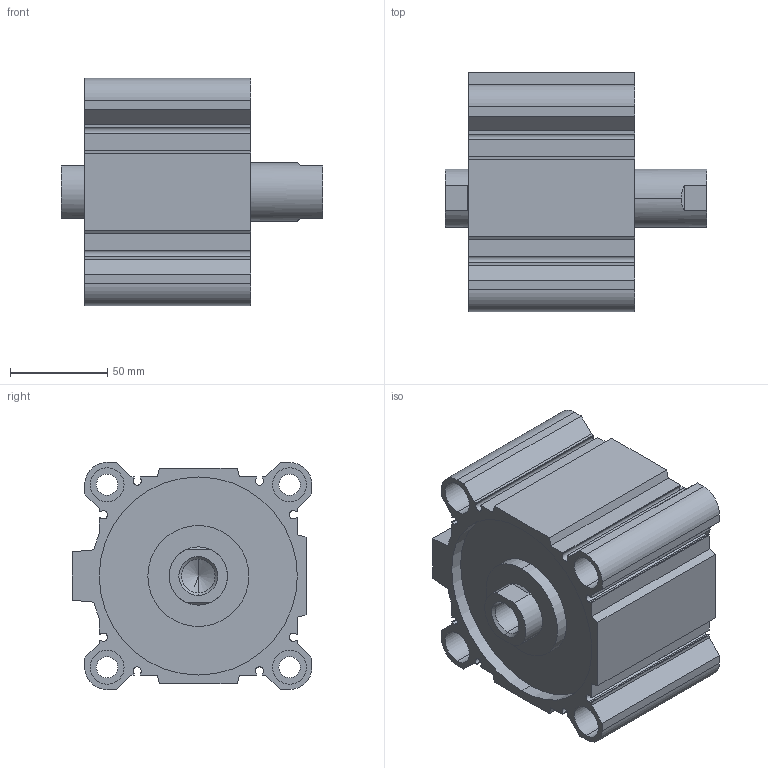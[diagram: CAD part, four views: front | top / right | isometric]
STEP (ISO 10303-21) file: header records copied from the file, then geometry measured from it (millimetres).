
FILE_DESCRIPTION (( 'STEP AP203' ), '1' );
FILE_NAME ('CCMB100-25F-P.STEP', '2020-08-05T11:53:24', ( '' ), ( '' ), 'SwSTEP 2.0', 'SolidWorks 2019', '' );
FILE_SCHEMA (( 'CONFIG_CONTROL_DESIGN' ));
Length unit declared in the file: millimetre
Products named in the file (1): CCMB100-25F-P
Bounding box: 134.5 x 123.5 x 117 mm (x, y, z)
Volume: 745650.7 mm3; surface area: 169834 mm2
Topology: 2 solids, 2 shells, 178 faces, 456 edges, 298 vertices
Faces by surface type: plane 90, cylinder 76, cone 12
Entity records: 5491 total; most frequent: DIRECTION 962, CARTESIAN_POINT 953, ORIENTED_EDGE 904, EDGE_CURVE 452, AXIS2_PLACEMENT_3D 339, VERTEX_POINT 298, LINE 284, VECTOR 284
